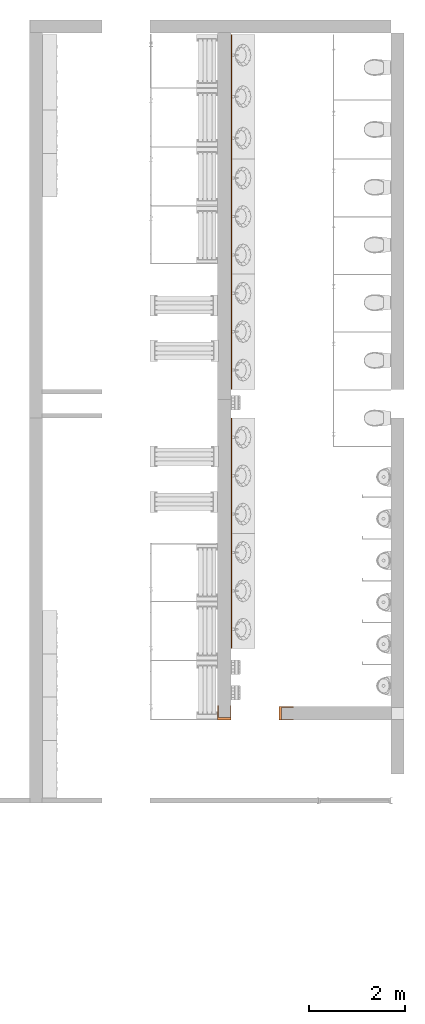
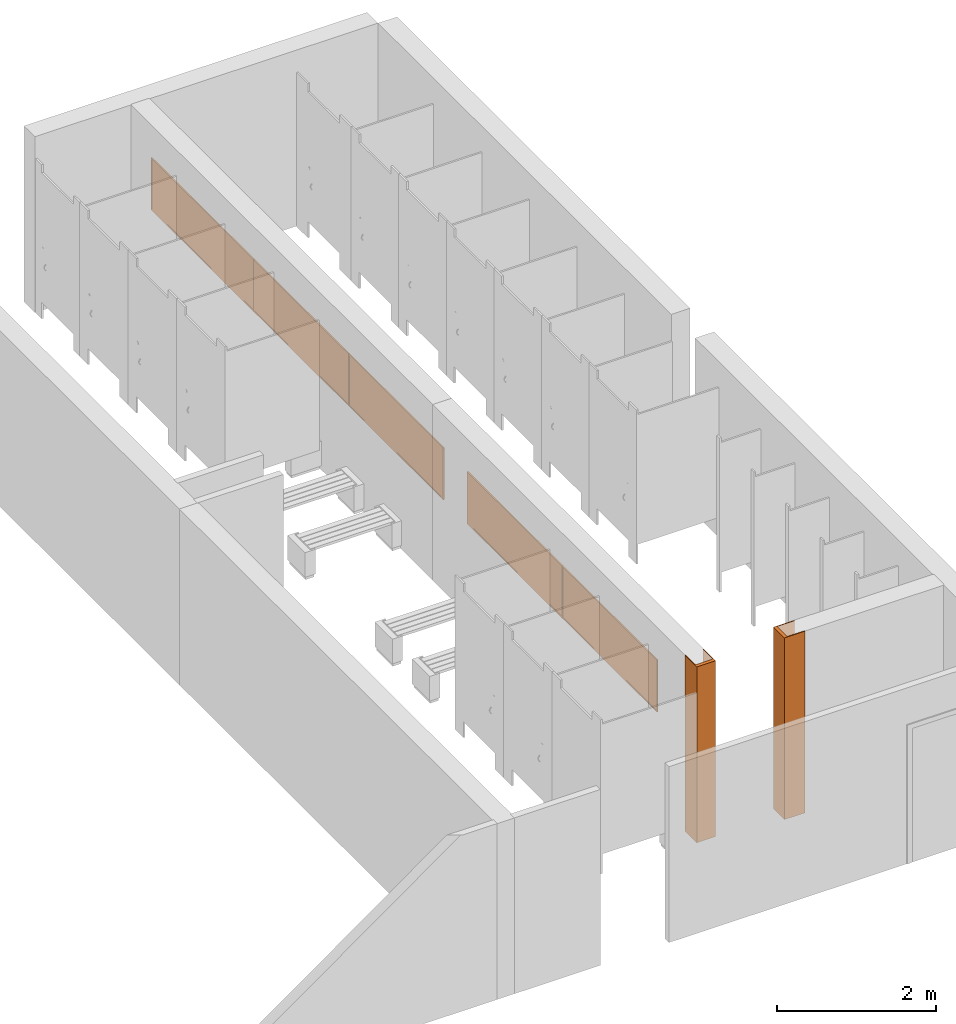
# One storey, part 22 of 22: 7 proxies.
"""IFC2X3 building model written with IfcOpenShell, lengths in millimetres."""

from ifc_helpers import new_model, entity, si_unit, converted_unit, derived_unit, direction, frame, frame_2d, origin, origin_2d_with_axis, place, context, subcontext, project, spatial, polyline, rectangle, outline, extrude, source, transform, mapped, material, material_list, type_object, type_shapes, element, save


model = new_model("IFC2X3")

# Units and contexts
model_context = context("Model", 3, precision=0.01, world=origin(), true_north=direction((6.12303176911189e-17, 1.0)))
body_context = subcontext(model_context, "Body", "Model", "MODEL_VIEW")
ifc_project = project(units=[si_unit("LENGTHUNIT", "METRE", prefix="MILLI"), si_unit("AREAUNIT", "SQUARE_METRE"), si_unit("VOLUMEUNIT", "CUBIC_METRE"), converted_unit("PLANEANGLEUNIT", "DEGREE", entity("IfcRatioMeasure", 0.0174532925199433), si_unit("PLANEANGLEUNIT", "RADIAN"), dimensions=[0, 0, 0, 0, 0, 0, 0]), si_unit("MASSUNIT", "GRAM", prefix="KILO"), derived_unit("MASSDENSITYUNIT", [(si_unit("MASSUNIT", "GRAM", prefix="KILO"), 1), (si_unit("LENGTHUNIT", "METRE"), -3)]), si_unit("TIMEUNIT", "SECOND"), si_unit("FREQUENCYUNIT", "HERTZ"), si_unit("THERMODYNAMICTEMPERATUREUNIT", "DEGREE_CELSIUS"), derived_unit("THERMALTRANSMITTANCEUNIT", [(si_unit("MASSUNIT", "GRAM", prefix="KILO"), 1), (si_unit("THERMODYNAMICTEMPERATUREUNIT", "KELVIN"), -1), (si_unit("TIMEUNIT", "SECOND"), -3)]), derived_unit("VOLUMETRICFLOWRATEUNIT", [(si_unit("LENGTHUNIT", "METRE"), 3), (si_unit("TIMEUNIT", "SECOND"), -1)]), si_unit("ELECTRICCURRENTUNIT", "AMPERE"), si_unit("ELECTRICVOLTAGEUNIT", "VOLT"), si_unit("POWERUNIT", "WATT"), si_unit("FORCEUNIT", "NEWTON", prefix="KILO"), si_unit("ILLUMINANCEUNIT", "LUX"), si_unit("LUMINOUSFLUXUNIT", "LUMEN"), si_unit("LUMINOUSINTENSITYUNIT", "CANDELA"), derived_unit("USERDEFINED", [(si_unit("MASSUNIT", "GRAM", prefix="KILO"), -1), (si_unit("LENGTHUNIT", "METRE"), -2), (si_unit("TIMEUNIT", "SECOND"), 3), (si_unit("LUMINOUSFLUXUNIT", "LUMEN"), 1)]), derived_unit("LINEARVELOCITYUNIT", [(si_unit("LENGTHUNIT", "METRE"), 1), (si_unit("TIMEUNIT", "SECOND"), -1)]), si_unit("PRESSUREUNIT", "PASCAL"), derived_unit("USERDEFINED", [(si_unit("LENGTHUNIT", "METRE"), -2), (si_unit("MASSUNIT", "GRAM", prefix="KILO"), 1), (si_unit("TIMEUNIT", "SECOND"), -2)])], contexts=[model_context])

# Site, building, storey
site_placement = place(None, origin())
site = spatial("IfcSite", under=ifc_project, at=site_placement, Name="Default", CompositionType="ELEMENT")
building_placement = place(site_placement, origin())
building = spatial("IfcBuilding", under=site, at=building_placement, CompositionType="ELEMENT")
storey_placement = place(building_placement, frame((0.0, 0.0, -3000.0)))
storey = spatial("IfcBuildingStorey", under=building, at=storey_placement, Name="-2. Story", CompositionType="ELEMENT", Elevation=-3000.0)

# Proxies
ifc_material_1 = material(Name="Stucco - White Fine")
building_element_proxy_type_1 = type_object("IfcBuildingElementProxyType", Name="WE - 001", PredefinedType="NOTDEFINED", material=ifc_material_1)
shared_shape_1 = source(origin(), body_context, "Body", "SweptSolid", [
    extrude(rectangle(XDim=50.000000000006, YDim=250.000000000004, at=frame_2d((-8.66329230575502e-12, -4.33431068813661e-12), x_axis=(1.0, 0.0))), frame((112711.23058118, 76366.4483369, -3000.0), z_axis=(0.0, 0.0, 1.0), x_axis=(-1.0, 0.0, 0.0)), (0.0, 0.0, 1.0), 2800.0),
    extrude(rectangle(XDim=249.999999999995, YDim=12.4999999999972, at=frame_2d((-8.66151594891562e-12, 4.33164615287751e-12), x_axis=(1.0, 0.0))), frame((112861.23058118, 76497.6983369, -3000.0), z_axis=(0.0, 0.0, 1.0), x_axis=(-1.0, 0.0, 0.0)), (0.0, 0.0, 1.0), 2800.0),
    extrude(rectangle(XDim=50.000000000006, YDim=12.4999999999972, at=frame_2d((-8.66329230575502e-12, 4.33164615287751e-12), x_axis=(1.0, 0.0))), frame((112711.23058118, 76497.6983369, -3000.0), z_axis=(0.0, 0.0, 1.0), x_axis=(-1.0, 0.0, 0.0)), (0.0, 0.0, 1.0), 2800.0),
    extrude(rectangle(XDim=249.999999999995, YDim=12.4999999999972, at=frame_2d((-8.66151594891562e-12, 4.33164615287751e-12), x_axis=(1.0, 0.0))), frame((112861.23058118, 76235.1983369, -3000.0), z_axis=(0.0, 0.0, 1.0), x_axis=(-1.0, 0.0, 0.0)), (0.0, 0.0, 1.0), 2800.0),
    extrude(rectangle(XDim=50.000000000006, YDim=12.4999999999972, at=frame_2d((-8.66329230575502e-12, 4.33164615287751e-12), x_axis=(1.0, 0.0))), frame((112711.23058118, 76235.1983369, -3000.0), z_axis=(0.0, 0.0, 1.0), x_axis=(-1.0, 0.0, 0.0)), (0.0, 0.0, 1.0), 2800.0),
])
type_shapes(building_element_proxy_type_1, [shared_shape_1])
proxy_1_placement = place(storey_placement, frame((0.0, 0.0, 3000.0)))
element("IfcBuildingElementProxy", 1, at=proxy_1_placement, inside=storey, type_object=building_element_proxy_type_1, material=ifc_material_1, Name="WE - 001 1586341:WE - 001 1586341", ObjectType="WE - 001 1586341:WE - 001 1586341", context=body_context, shape_type="MappedRepresentation", body=[
    mapped(shared_shape_1, transform((0.0, 0.0, 0.0), scale=1.0)),
])
building_element_proxy_type_2 = type_object("IfcBuildingElementProxyType", Name="WE - 001", PredefinedType="NOTDEFINED", material=ifc_material_1)
shared_shape_2 = source(origin(), body_context, "Body", "SweptSolid", [
    extrude(rectangle(XDim=49.9999999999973, YDim=249.999999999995, at=frame_2d((4.33253433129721e-12, -8.66151594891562e-12), x_axis=(1.0, 0.0))), frame((111548.730581, 76253.9483369, -2910.0), z_axis=(0.0, 0.0, 1.0), x_axis=(0.0, -1.0, 0.0)), (0.0, 0.0, 1.0), 2710.0),
    extrude(rectangle(XDim=250.000000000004, YDim=12.5000000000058, at=frame_2d((-4.33431068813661e-12, 0.0), x_axis=(1.0, 0.0))), frame((111417.480581, 76403.9483369, -2910.0), z_axis=(0.0, 0.0, 1.0), x_axis=(0.0, -1.0, 0.0)), (0.0, 0.0, 1.0), 2710.0),
    extrude(rectangle(XDim=49.9999999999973, YDim=12.5000000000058, at=frame_2d((4.33253433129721e-12, 0.0), x_axis=(1.0, 0.0))), frame((111417.480581, 76253.9483369, -2910.0), z_axis=(0.0, 0.0, 1.0), x_axis=(0.0, -1.0, 0.0)), (0.0, 0.0, 1.0), 2710.0),
    extrude(rectangle(XDim=250.000000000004, YDim=12.5000000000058, at=frame_2d((-4.33431068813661e-12, 0.0), x_axis=(1.0, 0.0))), frame((111679.980581, 76403.9483369, -2910.0), z_axis=(0.0, 0.0, 1.0), x_axis=(0.0, -1.0, 0.0)), (0.0, 0.0, 1.0), 2710.0),
    extrude(rectangle(XDim=49.9999999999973, YDim=12.5000000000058, at=frame_2d((4.33253433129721e-12, 0.0), x_axis=(1.0, 0.0))), frame((111679.980581, 76253.9483369, -2910.0), z_axis=(0.0, 0.0, 1.0), x_axis=(0.0, -1.0, 0.0)), (0.0, 0.0, 1.0), 2710.0),
])
type_shapes(building_element_proxy_type_2, [shared_shape_2])
proxy_2_placement = place(storey_placement, frame((0.0, 0.0, 3000.0)))
element("IfcBuildingElementProxy", 2, at=proxy_2_placement, inside=storey, type_object=building_element_proxy_type_2, material=ifc_material_1, Name="WE - 001 1588468:WE - 001 1588468", ObjectType="WE - 001 1588468:WE - 001 1588468", context=body_context, shape_type="MappedRepresentation", body=[
    mapped(shared_shape_2, transform((0.0, 0.0, 0.0), scale=1.0)),
])
ifc_material_2 = material(Name="Glass - Mirror")
ifc_material_3 = material(Name="Metal - Stainless Steel")
ifc_material_list_1 = material_list([ifc_material_2, ifc_material_3])
ifc_material_list_2 = material_list([ifc_material_2, ifc_material_3])
building_element_proxy_type_3 = type_object("IfcBuildingElementProxyType", Name="FU - 008", PredefinedType="NOTDEFINED", material=ifc_material_list_2)
shared_shape_3 = source(origin(), body_context, "Body", "SweptSolid", [
    extrude(rectangle(XDim=12.7004098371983, YDim=2354.20464307, at=origin_2d_with_axis()), frame((111695.755887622, 81306.846015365, -1874.45053944), z_axis=(0.0, 0.0, 1.0), x_axis=(-1.0, 0.0, 0.0)), (0.0, 0.0, 1.0), 760.0),
    extrude(outline(polyline([(825.265965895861, -839.408101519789), (853.550237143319, -839.408101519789), (-839.408101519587, 853.550237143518), (-839.408101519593, 825.26596589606), (825.265965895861, -839.408101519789)])), frame((111686.230580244, 81306.846015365, -1104.45053944), z_axis=(1.0, 0.0, 0.0), x_axis=(0.0, 0.707106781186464, 0.707106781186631)), (0.0, 0.0, 1.0), 19.0506147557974),
    extrude(outline(polyline([(-1197.10232153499, -10.0), (1197.10232153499, -10.0), (1177.102321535, 10.0), (-1177.102321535, 10.0), (-1197.10232153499, -10.0)])), frame((111686.230580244, 81306.846015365, -1884.45053944), z_axis=(1.0, 0.0, 0.0), x_axis=(0.0, 1.0, 0.0)), (0.0, 0.0, 1.0), 19.0506147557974),
    extrude(outline(polyline([(-400.0, -10.0), (400.0, -10.0), (380.0, 10.0), (-380.0, 10.0), (-400.0, -10.0)])), frame((111686.230580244, 80119.74369383, -1494.45053944), z_axis=(1.0, 0.0, 0.0), x_axis=(0.0, 0.0, -1.0)), (0.0, 0.0, 1.0), 19.0506147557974),
    extrude(outline(polyline([(261.629509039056, -275.771644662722), (289.913780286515, -275.771644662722), (-275.771644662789, 289.913780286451), (-275.771644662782, 261.629509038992), (261.629509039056, -275.771644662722)])), frame((111686.230580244, 82493.9483369, -1494.45053944), z_axis=(1.0, 0.0, 0.0), x_axis=(0.0, 0.707106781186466, -0.707106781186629)), (0.0, 0.0, 1.0), 19.0506147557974),
])
type_shapes(building_element_proxy_type_3, [shared_shape_3])
proxy_3_placement = place(storey_placement, frame((0.0, 0.0, 3000.0)))
element("IfcBuildingElementProxy", 3, at=proxy_3_placement, inside=storey, type_object=building_element_proxy_type_3, material=ifc_material_list_1, Name="FU - 008 1590037:FU - 008 1590037", ObjectType="FU - 008 1590037:FU - 008 1590037", context=body_context, shape_type="MappedRepresentation", body=[
    mapped(shared_shape_3, transform((0.0, 0.0, 0.0), scale=1.0)),
])
ifc_material_list_3 = material_list([ifc_material_2, ifc_material_3])
ifc_material_list_4 = material_list([ifc_material_2, ifc_material_3])
building_element_proxy_type_4 = type_object("IfcBuildingElementProxyType", Name="FU - 008", PredefinedType="NOTDEFINED", material=ifc_material_list_4)
shared_shape_4 = source(origin(), body_context, "Body", "SweptSolid", [
    extrude(rectangle(XDim=12.7004098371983, YDim=2354.20464306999, at=frame_2d((0.0, -4.32009983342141e-12), x_axis=(1.0, 0.0))), frame((111695.755887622, 78912.641372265, -1874.45053944), z_axis=(0.0, 0.0, 1.0), x_axis=(-1.0, 0.0, 0.0)), (0.0, 0.0, 1.0), 760.0),
    extrude(outline(polyline([(825.26596589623, -839.408101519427), (853.550237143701, -839.408101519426), (-839.408101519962, 853.55023714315), (-839.40810151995, 825.265965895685), (825.26596589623, -839.408101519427)])), frame((111686.230580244, 78912.641372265, -1104.45053944), z_axis=(1.0, 0.0, 0.0), x_axis=(0.0, 0.707106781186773, 0.707106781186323)), (0.0, 0.0, 1.0), 19.0506147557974),
    extrude(outline(polyline([(-1197.10232153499, -10.0), (1197.10232153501, -10.0), (1177.102321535, 10.0), (-1177.10232153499, 10.0), (-1197.10232153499, -10.0)])), frame((111686.230580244, 78912.641372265, -1884.45053944), z_axis=(1.0, 0.0, 0.0), x_axis=(0.0, 1.0, 0.0)), (0.0, 0.0, 1.0), 19.0506147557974),
    extrude(outline(polyline([(-400.0, -10.0), (400.0, -10.0), (380.0, 10.0), (-380.0, 10.0), (-400.0, -10.0)])), frame((111686.230580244, 77725.53905073, -1494.45053944), z_axis=(1.0, 0.0, 0.0), x_axis=(0.0, 0.0, -1.0)), (0.0, 0.0, 1.0), 19.0506147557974),
    extrude(outline(polyline([(261.629509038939, -275.771644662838), (289.91378028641, -275.771644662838), (-275.771644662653, 289.913780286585), (-275.771644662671, 261.629509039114), (261.629509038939, -275.771644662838)])), frame((111686.230580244, 80099.7436938, -1494.45053944), z_axis=(1.0, 0.0, 0.0), x_axis=(0.0, 0.707106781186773, -0.707106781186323)), (0.0, 0.0, 1.0), 19.0506147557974),
])
type_shapes(building_element_proxy_type_4, [shared_shape_4])
proxy_4_placement = place(storey_placement, frame((0.0, 0.0, 3000.0)))
element("IfcBuildingElementProxy", 4, at=proxy_4_placement, inside=storey, type_object=building_element_proxy_type_4, material=ifc_material_list_3, Name="FU - 008 1590204:FU - 008 1590204", ObjectType="FU - 008 1590204:FU - 008 1590204", context=body_context, shape_type="MappedRepresentation", body=[
    mapped(shared_shape_4, transform((0.0, 0.0, 0.0), scale=1.0)),
])
ifc_material_list_5 = material_list([ifc_material_2, ifc_material_3])
ifc_material_list_6 = material_list([ifc_material_2, ifc_material_3])
building_element_proxy_type_5 = type_object("IfcBuildingElementProxyType", Name="FU - 008", PredefinedType="NOTDEFINED", material=ifc_material_list_6)
shared_shape_5 = source(origin(), body_context, "Body", "SweptSolid", [
    extrude(rectangle(XDim=12.7004098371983, YDim=2550.86308057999, at=frame_2d((0.0, -8.64019966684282e-12), x_axis=(1.0, 0.0))), frame((111695.755887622, 89187.78916331, -1874.45053944), z_axis=(0.0, 0.0, 1.0), x_axis=(-1.0, 0.0, 0.0)), (0.0, 0.0, 1.0), 760.0),
    extrude(outline(polyline([(894.79522326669, -908.937358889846), (923.079494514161, -908.937358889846), (-908.937358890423, 923.079494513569), (-908.937358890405, 894.795223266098), (894.79522326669, -908.937358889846)])), frame((111686.230580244, 89187.78916331, -1104.45053944), z_axis=(1.0, 0.0, 0.0), x_axis=(0.0, 0.707106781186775, 0.70710678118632)), (0.0, 0.0, 1.0), 19.0506147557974),
    extrude(outline(polyline([(-1295.43154029, -10.0), (1295.43154029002, -10.0), (1275.43154029, 10.0), (-1275.43154028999, 10.0), (-1295.43154029, -10.0)])), frame((111686.230580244, 89187.78916331, -1884.45053944), z_axis=(1.0, 0.0, 0.0), x_axis=(0.0, 1.0, 0.0)), (0.0, 0.0, 1.0), 19.0506147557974),
    extrude(outline(polyline([(-400.0, -10.0), (400.0, -10.0), (380.0, 10.0), (-380.0, 10.0), (-400.0, -10.0)])), frame((111686.230580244, 87902.35762302, -1494.45053944), z_axis=(1.0, 0.0, 0.0), x_axis=(0.0, 0.0, -1.0)), (0.0, 0.0, 1.0), 19.0506147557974),
    extrude(outline(polyline([(261.629509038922, -275.771644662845), (289.913780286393, -275.771644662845), (-275.771644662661, 289.913780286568), (-275.771644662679, 261.629509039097), (261.629509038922, -275.771644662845)])), frame((111686.230580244, 90473.2207036, -1494.45053944), z_axis=(1.0, 0.0, 0.0), x_axis=(0.0, 0.707106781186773, -0.707106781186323)), (0.0, 0.0, 1.0), 19.0506147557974),
])
type_shapes(building_element_proxy_type_5, [shared_shape_5])
proxy_5_placement = place(storey_placement, frame((0.0, 0.0, 3000.0)))
element("IfcBuildingElementProxy", 5, at=proxy_5_placement, inside=storey, type_object=building_element_proxy_type_5, material=ifc_material_list_5, Name="FU - 008 1618691:FU - 008 1618691", ObjectType="FU - 008 1618691:FU - 008 1618691", context=body_context, shape_type="MappedRepresentation", body=[
    mapped(shared_shape_5, transform((0.0, 0.0, 0.0), scale=1.0)),
])
ifc_material_list_7 = material_list([ifc_material_2, ifc_material_3])
ifc_material_list_8 = material_list([ifc_material_2, ifc_material_3])
building_element_proxy_type_6 = type_object("IfcBuildingElementProxyType", Name="FU - 008", PredefinedType="NOTDEFINED", material=ifc_material_list_8)
shared_shape_6 = source(origin(), body_context, "Body", "SweptSolid", [
    extrude(rectangle(XDim=12.7004098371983, YDim=2354.20464307, at=origin_2d_with_axis()), frame((111695.755887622, 86695.255301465, -1874.45053944), z_axis=(0.0, 0.0, 1.0), x_axis=(-1.0, 0.0, 0.0)), (0.0, 0.0, 1.0), 760.0),
    extrude(outline(polyline([(825.265965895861, -839.408101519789), (853.550237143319, -839.408101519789), (-839.408101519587, 853.550237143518), (-839.408101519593, 825.26596589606), (825.265965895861, -839.408101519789)])), frame((111686.230580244, 86695.255301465, -1104.45053944), z_axis=(1.0, 0.0, 0.0), x_axis=(0.0, 0.707106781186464, 0.707106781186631)), (0.0, 0.0, 1.0), 19.0506147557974),
    extrude(outline(polyline([(-1197.10232153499, -10.0), (1197.10232153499, -10.0), (1177.102321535, 10.0), (-1177.102321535, 10.0), (-1197.10232153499, -10.0)])), frame((111686.230580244, 86695.255301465, -1884.45053944), z_axis=(1.0, 0.0, 0.0), x_axis=(0.0, 1.0, 0.0)), (0.0, 0.0, 1.0), 19.0506147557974),
    extrude(outline(polyline([(-400.0, -10.0), (400.0, -10.0), (380.0, 10.0), (-380.0, 10.0), (-400.0, -10.0)])), frame((111686.230580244, 85508.15297993, -1494.45053944), z_axis=(1.0, 0.0, 0.0), x_axis=(0.0, 0.0, -1.0)), (0.0, 0.0, 1.0), 19.0506147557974),
    extrude(outline(polyline([(261.629509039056, -275.771644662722), (289.913780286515, -275.771644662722), (-275.771644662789, 289.913780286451), (-275.771644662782, 261.629509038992), (261.629509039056, -275.771644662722)])), frame((111686.230580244, 87882.357623, -1494.45053944), z_axis=(1.0, 0.0, 0.0), x_axis=(0.0, 0.707106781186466, -0.707106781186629)), (0.0, 0.0, 1.0), 19.0506147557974),
])
type_shapes(building_element_proxy_type_6, [shared_shape_6])
proxy_6_placement = place(storey_placement, frame((0.0, 0.0, 3000.0)))
element("IfcBuildingElementProxy", 6, at=proxy_6_placement, inside=storey, type_object=building_element_proxy_type_6, material=ifc_material_list_7, Name="FU - 008 1618858:FU - 008 1618858", ObjectType="FU - 008 1618858:FU - 008 1618858", context=body_context, shape_type="MappedRepresentation", body=[
    mapped(shared_shape_6, transform((0.0, 0.0, 0.0), scale=1.0)),
])
ifc_material_list_9 = material_list([ifc_material_2, ifc_material_3])
ifc_material_list_10 = material_list([ifc_material_2, ifc_material_3])
building_element_proxy_type_7 = type_object("IfcBuildingElementProxyType", Name="FU - 008", PredefinedType="NOTDEFINED", material=ifc_material_list_10)
shared_shape_7 = source(origin(), body_context, "Body", "SweptSolid", [
    extrude(rectangle(XDim=12.7004098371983, YDim=2354.20464307, at=origin_2d_with_axis()), frame((111695.755887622, 84301.050658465, -1874.45053944), z_axis=(0.0, 0.0, 1.0), x_axis=(-1.0, 0.0, 0.0)), (0.0, 0.0, 1.0), 760.0),
    extrude(outline(polyline([(825.26596589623, -839.408101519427), (853.550237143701, -839.408101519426), (-839.408101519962, 853.55023714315), (-839.408101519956, 825.265965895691), (825.26596589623, -839.408101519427)])), frame((111686.230580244, 84301.050658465, -1104.45053944), z_axis=(1.0, 0.0, 0.0), x_axis=(0.0, 0.707106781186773, 0.707106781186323)), (0.0, 0.0, 1.0), 19.0506147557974),
    extrude(outline(polyline([(-1197.10232153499, -10.0), (1197.10232153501, -10.0), (1177.102321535, 10.0), (-1177.102321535, 10.0), (-1197.10232153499, -10.0)])), frame((111686.230580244, 84301.050658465, -1884.45053944), z_axis=(1.0, 0.0, 0.0), x_axis=(0.0, 1.0, 0.0)), (0.0, 0.0, 1.0), 19.0506147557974),
    extrude(outline(polyline([(-400.0, -10.0), (400.0, -10.0), (380.0, 10.0), (-380.0, 10.0), (-400.0, -10.0)])), frame((111686.230580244, 83113.94833693, -1494.45053944), z_axis=(1.0, 0.0, 0.0), x_axis=(0.0, 0.0, -1.0)), (0.0, 0.0, 1.0), 19.0506147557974),
    extrude(outline(polyline([(261.629509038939, -275.771644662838), (289.91378028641, -275.771644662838), (-275.771644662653, 289.913780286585), (-275.771644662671, 261.629509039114), (261.629509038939, -275.771644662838)])), frame((111686.230580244, 85488.15298, -1494.45053944), z_axis=(1.0, 0.0, 0.0), x_axis=(0.0, 0.707106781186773, -0.707106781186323)), (0.0, 0.0, 1.0), 19.0506147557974),
])
type_shapes(building_element_proxy_type_7, [shared_shape_7])
proxy_7_placement = place(storey_placement, frame((0.0, 0.0, 3000.0)))
element("IfcBuildingElementProxy", 7, at=proxy_7_placement, inside=storey, type_object=building_element_proxy_type_7, material=ifc_material_list_9, Name="FU - 008 1619016:FU - 008 1619016", ObjectType="FU - 008 1619016:FU - 008 1619016", context=body_context, shape_type="MappedRepresentation", body=[
    mapped(shared_shape_7, transform((0.0, 0.0, 0.0), scale=1.0)),
])

save(model, "model.ifc")
